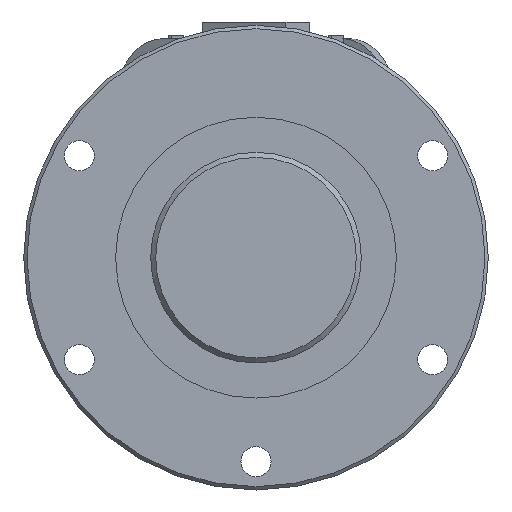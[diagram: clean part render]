
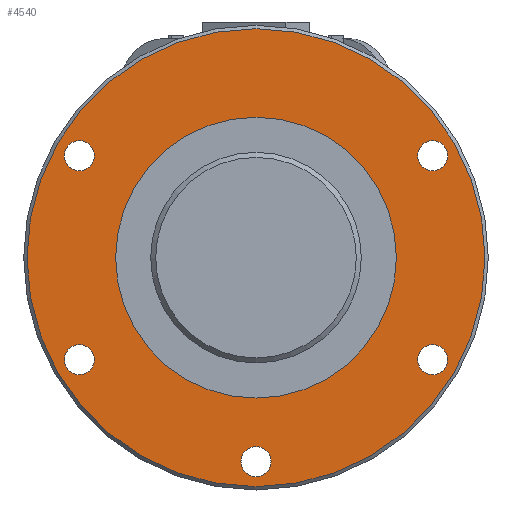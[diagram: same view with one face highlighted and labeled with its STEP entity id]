
A CAD part, left-side view. The second image highlights one B-rep face of the part: STEP entity #4540.
In plain terms, the highlighted planar face has unit normal (-1, 0, 0).
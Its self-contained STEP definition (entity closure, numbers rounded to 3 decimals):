
#1603=ORIENTED_EDGE('',*,*,#2756,.T.);
#1604=ORIENTED_EDGE('',*,*,#2757,.T.);
#1605=ORIENTED_EDGE('',*,*,#2758,.T.);
#1606=ORIENTED_EDGE('',*,*,#2759,.T.);
#1607=ORIENTED_EDGE('',*,*,#2760,.T.);
#1608=ORIENTED_EDGE('',*,*,#2761,.T.);
#1609=ORIENTED_EDGE('',*,*,#2762,.F.);
#2756=EDGE_CURVE('',#3329,#3329,#3522,.T.);
#2757=EDGE_CURVE('',#3330,#3330,#3523,.T.);
#2758=EDGE_CURVE('',#3331,#3331,#3524,.T.);
#2759=EDGE_CURVE('',#3332,#3332,#3525,.T.);
#2760=EDGE_CURVE('',#3333,#3333,#3526,.T.);
#2761=EDGE_CURVE('',#3334,#3334,#3527,.T.);
#2762=EDGE_CURVE('',#3335,#3335,#3528,.T.);
#3329=VERTEX_POINT('',#7254);
#3330=VERTEX_POINT('',#7256);
#3331=VERTEX_POINT('',#7258);
#3332=VERTEX_POINT('',#7260);
#3333=VERTEX_POINT('',#7262);
#3334=VERTEX_POINT('',#7264);
#3335=VERTEX_POINT('',#7266);
#3522=CIRCLE('',#4848,42.);
#3523=CIRCLE('',#4849,4.5);
#3524=CIRCLE('',#4850,4.5);
#3525=CIRCLE('',#4851,4.5);
#3526=CIRCLE('',#4852,4.5);
#3527=CIRCLE('',#4853,4.5);
#3528=CIRCLE('',#4854,68.5);
#3718=EDGE_LOOP('',(#1603));
#3719=EDGE_LOOP('',(#1604));
#3720=EDGE_LOOP('',(#1605));
#3721=EDGE_LOOP('',(#1606));
#3722=EDGE_LOOP('',(#1607));
#3723=EDGE_LOOP('',(#1608));
#3724=EDGE_LOOP('',(#1609));
#4048=FACE_BOUND('',#3718,.T.);
#4049=FACE_BOUND('',#3719,.T.);
#4050=FACE_BOUND('',#3720,.T.);
#4051=FACE_BOUND('',#3721,.T.);
#4052=FACE_BOUND('',#3722,.T.);
#4053=FACE_BOUND('',#3723,.T.);
#4054=FACE_BOUND('',#3724,.T.);
#4344=PLANE('',#4847);
#4540=ADVANCED_FACE('',(#4048,#4049,#4050,#4051,#4052,#4053,#4054),#4344,
 .T.);
#4847=AXIS2_PLACEMENT_3D('',#7252,#5635,#5636);
#4848=AXIS2_PLACEMENT_3D('',#7253,#5637,#5638);
#4849=AXIS2_PLACEMENT_3D('',#7255,#5639,#5640);
#4850=AXIS2_PLACEMENT_3D('',#7257,#5641,#5642);
#4851=AXIS2_PLACEMENT_3D('',#7259,#5643,#5644);
#4852=AXIS2_PLACEMENT_3D('',#7261,#5645,#5646);
#4853=AXIS2_PLACEMENT_3D('',#7263,#5647,#5648);
#4854=AXIS2_PLACEMENT_3D('',#7265,#5649,#5650);
#5635=DIRECTION('',(-1.,0.,0.));
#5636=DIRECTION('',(0.,0.,1.));
#5637=DIRECTION('',(1.,0.,0.));
#5638=DIRECTION('',(0.,0.,-1.));
#5639=DIRECTION('',(1.,0.,0.));
#5640=DIRECTION('',(0.,0.,-1.));
#5641=DIRECTION('',(1.,0.,0.));
#5642=DIRECTION('',(0.,0.,-1.));
#5643=DIRECTION('',(1.,0.,0.));
#5644=DIRECTION('',(0.,0.,-1.));
#5645=DIRECTION('',(1.,0.,0.));
#5646=DIRECTION('',(0.,0.,-1.));
#5647=DIRECTION('',(1.,0.,0.));
#5648=DIRECTION('',(0.,0.,-1.));
#5649=DIRECTION('',(1.,0.,0.));
#5650=DIRECTION('',(0.,0.,-1.));
#7252=CARTESIAN_POINT('',(0.,68.5,0.));
#7253=CARTESIAN_POINT('',(0.,0.,0.));
#7254=CARTESIAN_POINT('',(0.,0.,-42.));
#7255=CARTESIAN_POINT('',(0.,-61.,0.));
#7256=CARTESIAN_POINT('',(0.,-61.,-4.5));
#7257=CARTESIAN_POINT('',(0.,-30.5,52.828));
#7258=CARTESIAN_POINT('',(0.,-30.5,48.328));
#7259=CARTESIAN_POINT('',(0.,30.5,-52.828));
#7260=CARTESIAN_POINT('',(0.,30.5,-57.328));
#7261=CARTESIAN_POINT('',(0.,-30.5,-52.828));
#7262=CARTESIAN_POINT('',(0.,-30.5,-57.328));
#7263=CARTESIAN_POINT('',(0.,30.5,52.828));
#7264=CARTESIAN_POINT('',(0.,30.5,48.328));
#7265=CARTESIAN_POINT('',(0.,0.,0.));
#7266=CARTESIAN_POINT('',(0.,0.,-68.5));
